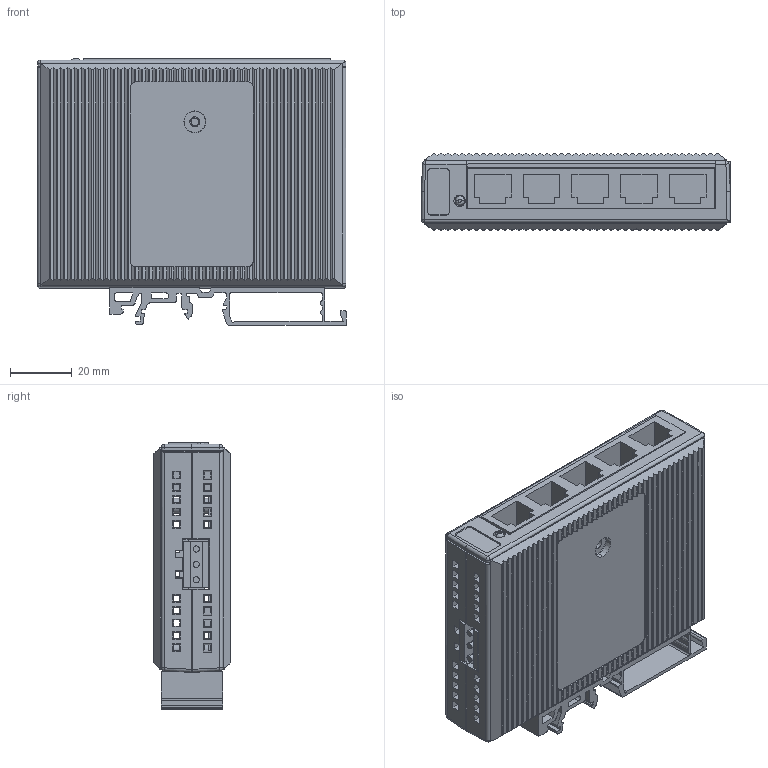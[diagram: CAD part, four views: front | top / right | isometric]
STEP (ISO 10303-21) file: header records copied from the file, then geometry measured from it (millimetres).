
FILE_DESCRIPTION((''),'2;1');
FILE_NAME('EDS-205_ASM','2012-05-03T',('Vincent_Huang'),(''),'PRO/ENGINEER BY PARAMETRIC TECHNOLOGY CORPORATION, 2004320','PRO/ENGINEER BY PARAMETRIC TECHNOLOGY CORPORATION, 2004320','');
FILE_SCHEMA(('CONFIG_CONTROL_DESIGN'));
Products named in the file (5): BOTTOM; TOP; EDS-205_PCB_; SP-01-0040A001; EDS-205_ASM
Assembly tree (4 placements, depth 2):
  EDS-205_ASM
    BOTTOM
    TOP
    EDS-205_PCB_
    SP-01-0040A001
Bounding box: 100.18 x 24.87 x 86.51 mm (x, y, z)
Volume: 68835 mm3; surface area: 72389.6 mm2
Topology: 4 solids, 4 shells, 1272 faces, 3553 edges, 2326 vertices
Faces by surface type: plane 989, cylinder 241, cone 28, sphere 7, bspline 7
Entity records: 41050 total; most frequent: CARTESIAN_POINT 8435, ORIENTED_EDGE 7106, DIRECTION 6081, EDGE_CURVE 3553, VECTOR 2935, LINE 2935, VERTEX_POINT 2326, AXIS2_PLACEMENT_3D 1573
